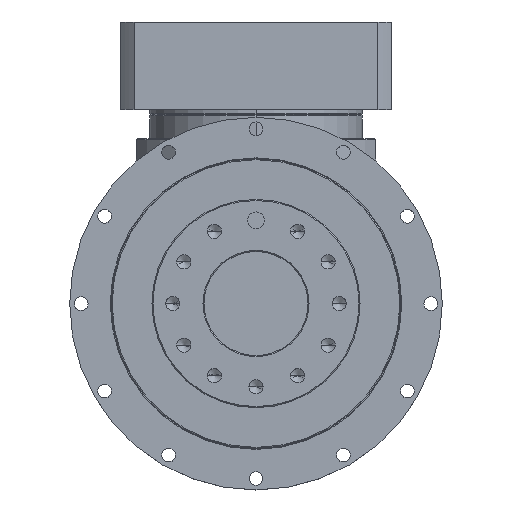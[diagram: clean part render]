
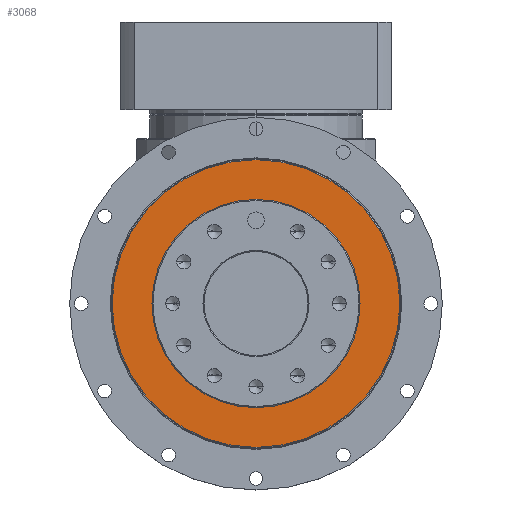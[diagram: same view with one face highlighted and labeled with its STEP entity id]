
A CAD part, top view. The second image highlights one B-rep face of the part: STEP entity #3068.
In plain terms, the highlighted planar face has unit normal (0, 0, 1).
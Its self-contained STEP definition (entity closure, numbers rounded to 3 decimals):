
#14 = ORIENTED_EDGE ( 'NONE', *, *, #8297, .T. ) ;
#189 = FACE_BOUND ( 'NONE', #1891, .T. ) ;
#318 = EDGE_CURVE ( 'NONE', #4949, #2245, #7036, .T. ) ;
#1006 = VERTEX_POINT ( 'NONE', #9482 ) ;
#1171 = ORIENTED_EDGE ( 'NONE', *, *, #318, .T. ) ;
#1261 = CARTESIAN_POINT ( 'NONE',  ( 69.1, 0., 42. ) ) ;
#1307 = AXIS2_PLACEMENT_3D ( 'NONE', #5156, #6770, #10111 ) ;
#1814 = CARTESIAN_POINT ( 'NONE',  ( 0., 0., 42. ) ) ;
#1891 = EDGE_LOOP ( 'NONE', ( #8751, #4814 ) ) ;
#2245 = VERTEX_POINT ( 'NONE', #8069 ) ;
#2606 = DIRECTION ( 'NONE',  ( 1., 0., 0. ) ) ;
#2637 = DIRECTION ( 'NONE',  ( 0., 0., 1. ) ) ;
#2942 = AXIS2_PLACEMENT_3D ( 'NONE', #1814, #5878, #10081 ) ;
#3068 = ADVANCED_FACE ( 'NONE', ( #189, #9183 ), #9896, .T. ) ;
#3285 = CARTESIAN_POINT ( 'NONE',  ( 0., 0., 42. ) ) ;
#3681 = AXIS2_PLACEMENT_3D ( 'NONE', #6623, #8340, #8993 ) ;
#4237 = CARTESIAN_POINT ( 'NONE',  ( 0., 0., 42. ) ) ;
#4730 = AXIS2_PLACEMENT_3D ( 'NONE', #4237, #7547, #2606 ) ;
#4814 = ORIENTED_EDGE ( 'NONE', *, *, #10593, .F. ) ;
#4949 = VERTEX_POINT ( 'NONE', #1261 ) ;
#5156 = CARTESIAN_POINT ( 'NONE',  ( 0., 0., 42. ) ) ;
#5825 = AXIS2_PLACEMENT_3D ( 'NONE', #3285, #2637, #6709 ) ;
#5878 = DIRECTION ( 'NONE',  ( 0., 0., 1. ) ) ;
#5979 = VERTEX_POINT ( 'NONE', #5992 ) ;
#5992 = CARTESIAN_POINT ( 'NONE',  ( -50., 0., 42. ) ) ;
#6623 = CARTESIAN_POINT ( 'NONE',  ( 0., 0., 42. ) ) ;
#6709 = DIRECTION ( 'NONE',  ( 1., 0., 0. ) ) ;
#6770 = DIRECTION ( 'NONE',  ( 0., 0., 1. ) ) ;
#7036 = CIRCLE ( 'NONE', #5825, 69.1 ) ;
#7454 = CIRCLE ( 'NONE', #2942, 50. ) ;
#7547 = DIRECTION ( 'NONE',  ( 0., 0., 1. ) ) ;
#8069 = CARTESIAN_POINT ( 'NONE',  ( -69.1, 0., 42. ) ) ;
#8097 = EDGE_LOOP ( 'NONE', ( #1171, #14 ) ) ;
#8297 = EDGE_CURVE ( 'NONE', #2245, #4949, #10410, .T. ) ;
#8340 = DIRECTION ( 'NONE',  ( 0., 0., 1. ) ) ;
#8355 = EDGE_CURVE ( 'NONE', #5979, #1006, #9375, .T. ) ;
#8751 = ORIENTED_EDGE ( 'NONE', *, *, #8355, .F. ) ;
#8993 = DIRECTION ( 'NONE',  ( 1., 0., 0. ) ) ;
#9183 = FACE_OUTER_BOUND ( 'NONE', #8097, .T. ) ;
#9375 = CIRCLE ( 'NONE', #4730, 50. ) ;
#9482 = CARTESIAN_POINT ( 'NONE',  ( 50., 0., 42. ) ) ;
#9896 = PLANE ( 'NONE',  #1307 ) ;
#10081 = DIRECTION ( 'NONE',  ( 1., 0., 0. ) ) ;
#10111 = DIRECTION ( 'NONE',  ( 1., 0., 0. ) ) ;
#10410 = CIRCLE ( 'NONE', #3681, 69.1 ) ;
#10593 = EDGE_CURVE ( 'NONE', #1006, #5979, #7454, .T. ) ;
